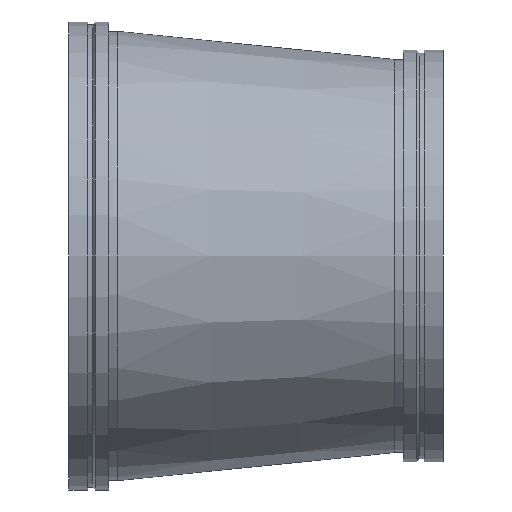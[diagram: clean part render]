
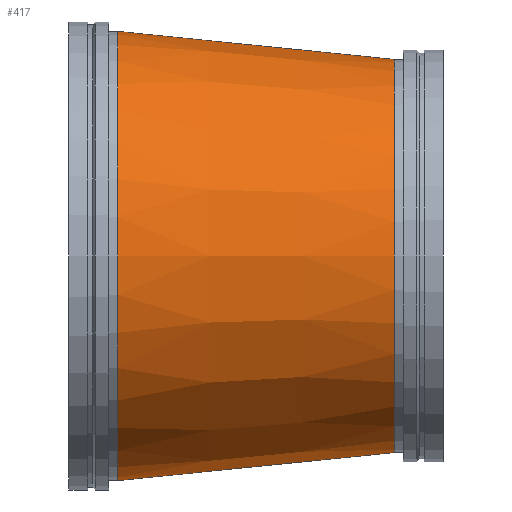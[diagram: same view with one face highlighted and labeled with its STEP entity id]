
A CAD part, front view. The second image highlights one B-rep face of the part: STEP entity #417.
In plain terms, the highlighted conical face has half-angle 5.807 degrees and reference radius 571.5 mm.
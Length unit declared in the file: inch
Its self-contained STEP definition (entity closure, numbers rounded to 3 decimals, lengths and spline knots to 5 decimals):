
#46=CONICAL_SURFACE('',#475,22.5,0.101);
#54=LINE('',#739,#68);
#68=VECTOR('',#587,22.5);
#101=FACE_OUTER_BOUND('',#124,.T.);
#124=EDGE_LOOP('',(#315,#316,#317,#318,#319,#320));
#155=CIRCLE('',#473,24.);
#156=CIRCLE('',#474,24.);
#157=CIRCLE('',#476,21.);
#158=CIRCLE('',#477,21.);
#195=VERTEX_POINT('',#729);
#196=VERTEX_POINT('',#730);
#197=VERTEX_POINT('',#735);
#198=VERTEX_POINT('',#736);
#239=EDGE_CURVE('',#195,#196,#155,.T.);
#240=EDGE_CURVE('',#196,#195,#156,.T.);
#242=EDGE_CURVE('',#197,#198,#157,.T.);
#243=EDGE_CURVE('',#198,#197,#158,.T.);
#244=EDGE_CURVE('',#198,#196,#54,.T.);
#315=ORIENTED_EDGE('',*,*,#242,.F.);
#316=ORIENTED_EDGE('',*,*,#243,.F.);
#317=ORIENTED_EDGE('',*,*,#244,.T.);
#318=ORIENTED_EDGE('',*,*,#240,.T.);
#319=ORIENTED_EDGE('',*,*,#239,.T.);
#320=ORIENTED_EDGE('',*,*,#244,.F.);
#417=ADVANCED_FACE('',(#101),#46,.T.);
#473=AXIS2_PLACEMENT_3D('',#731,#576,#577);
#474=AXIS2_PLACEMENT_3D('',#732,#578,#579);
#475=AXIS2_PLACEMENT_3D('',#734,#581,#582);
#476=AXIS2_PLACEMENT_3D('',#737,#583,#584);
#477=AXIS2_PLACEMENT_3D('',#738,#585,#586);
#576=DIRECTION('center_axis',(1.,0.,0.));
#577=DIRECTION('ref_axis',(0.,0.,-1.));
#578=DIRECTION('center_axis',(1.,0.,0.));
#579=DIRECTION('ref_axis',(0.,0.,-1.));
#581=DIRECTION('center_axis',(-1.,0.,0.));
#582=DIRECTION('ref_axis',(0.,1.,0.));
#583=DIRECTION('center_axis',(1.,0.,0.));
#584=DIRECTION('ref_axis',(0.,0.,-1.));
#585=DIRECTION('center_axis',(1.,0.,0.));
#586=DIRECTION('ref_axis',(0.,0.,-1.));
#587=DIRECTION('',(-0.995,-0.101,0.));
#729=CARTESIAN_POINT('',(5.25,24.,0.));
#730=CARTESIAN_POINT('',(5.25,-24.,0.));
#731=CARTESIAN_POINT('Origin',(5.25,0.,0.));
#732=CARTESIAN_POINT('Origin',(5.25,0.,0.));
#734=CARTESIAN_POINT('Origin',(20.,0.,0.));
#735=CARTESIAN_POINT('',(34.75,21.,0.));
#736=CARTESIAN_POINT('',(34.75,-21.,0.));
#737=CARTESIAN_POINT('Origin',(34.75,0.,0.));
#738=CARTESIAN_POINT('Origin',(34.75,0.,0.));
#739=CARTESIAN_POINT('',(20.,-22.5,0.));
